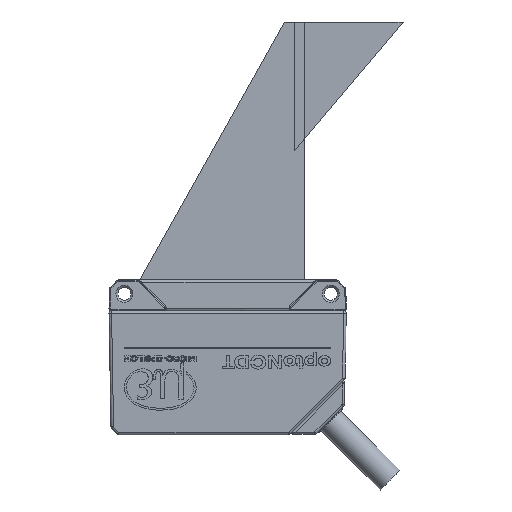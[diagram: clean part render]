
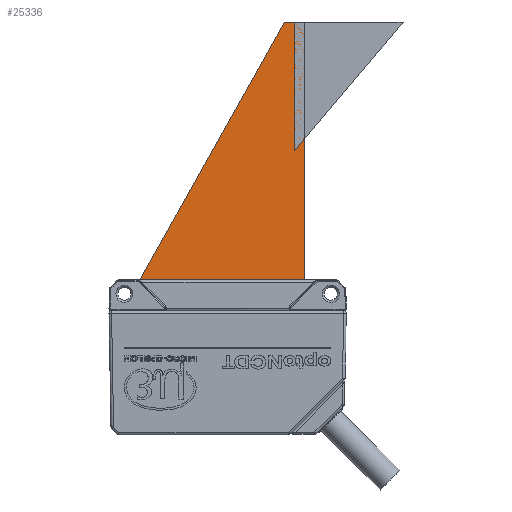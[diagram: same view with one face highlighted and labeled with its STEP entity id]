
A CAD part, front view. The second image highlights one B-rep face of the part: STEP entity #25336.
In plain terms, the highlighted planar face has unit normal (0, -1, 0).
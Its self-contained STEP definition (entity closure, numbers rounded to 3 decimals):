
#3898 = PLANE ( 'NONE',  #38815 ) ;
#5174 = CARTESIAN_POINT ( 'NONE',  ( 14.991, -1.5, 55. ) ) ;
#12211 = DIRECTION ( 'NONE',  ( -1., 0., 0. ) ) ;
#20541 = ORIENTED_EDGE ( 'NONE', *, *, #44472, .F. ) ;
#21382 = LINE ( 'NONE', #49028, #48701 ) ;
#21766 = ORIENTED_EDGE ( 'NONE', *, *, #34863, .F. ) ;
#22271 = DIRECTION ( 'NONE',  ( 0.488, 0., 0.873 ) ) ;
#23645 = VECTOR ( 'NONE', #66190, 1000. ) ;
#25336 = ADVANCED_FACE ( 'NONE', ( #57374 ), #3898, .T. ) ;
#27050 = CARTESIAN_POINT ( 'NONE',  ( 14.991, -1.5, 5. ) ) ;
#29868 = EDGE_CURVE ( 'NONE', #72059, #63603, #21382, .T. ) ;
#34863 = EDGE_CURVE ( 'NONE', #53432, #87233, #57404, .T. ) ;
#35163 = EDGE_CURVE ( 'NONE', #87233, #72059, #52327, .T. ) ;
#38815 = AXIS2_PLACEMENT_3D ( 'NONE', #58706, #58257, #79153 ) ;
#42660 = ORIENTED_EDGE ( 'NONE', *, *, #35163, .F. ) ;
#44472 = EDGE_CURVE ( 'NONE', #63603, #53432, #85770, .T. ) ;
#48603 = VECTOR ( 'NONE', #50729, 1000. ) ;
#48701 = VECTOR ( 'NONE', #22271, 1000. ) ;
#49028 = CARTESIAN_POINT ( 'NONE',  ( 11., -1.5, 55. ) ) ;
#50729 = DIRECTION ( 'NONE',  ( 0., 0., -1. ) ) ;
#52327 = LINE ( 'NONE', #66985, #77033 ) ;
#53432 = VERTEX_POINT ( 'NONE', #5174 ) ;
#55259 = CARTESIAN_POINT ( 'NONE',  ( -16.991, -1.5, 5. ) ) ;
#57374 = FACE_OUTER_BOUND ( 'NONE', #85339, .T. ) ;
#57404 = LINE ( 'NONE', #84541, #48603 ) ;
#58205 = CARTESIAN_POINT ( 'NONE',  ( 14.991, -1.5, 55. ) ) ;
#58257 = DIRECTION ( 'NONE',  ( 0., -1., 0. ) ) ;
#58706 = CARTESIAN_POINT ( 'NONE',  ( 0., -1.5, 0. ) ) ;
#63603 = VERTEX_POINT ( 'NONE', #82716 ) ;
#66190 = DIRECTION ( 'NONE',  ( 1., 0., 0. ) ) ;
#66985 = CARTESIAN_POINT ( 'NONE',  ( -16.991, -1.5, 5. ) ) ;
#70391 = ORIENTED_EDGE ( 'NONE', *, *, #29868, .F. ) ;
#72059 = VERTEX_POINT ( 'NONE', #55259 ) ;
#77033 = VECTOR ( 'NONE', #12211, 1000. ) ;
#79153 = DIRECTION ( 'NONE',  ( 0., 0., -1. ) ) ;
#82716 = CARTESIAN_POINT ( 'NONE',  ( 11., -1.5, 55. ) ) ;
#84541 = CARTESIAN_POINT ( 'NONE',  ( 14.991, -1.5, 5. ) ) ;
#85339 = EDGE_LOOP ( 'NONE', ( #70391, #42660, #21766, #20541 ) ) ;
#85770 = LINE ( 'NONE', #58205, #23645 ) ;
#87233 = VERTEX_POINT ( 'NONE', #27050 ) ;
